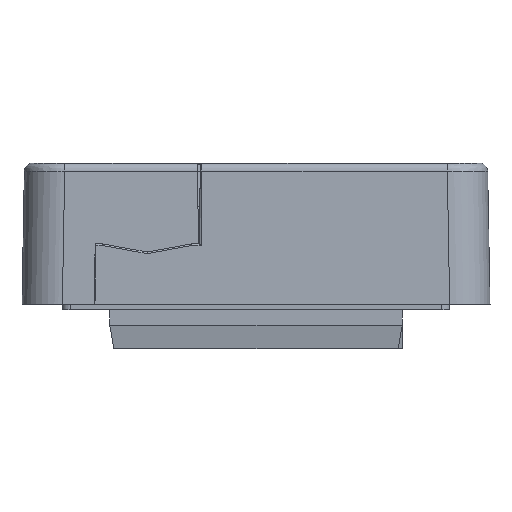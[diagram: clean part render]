
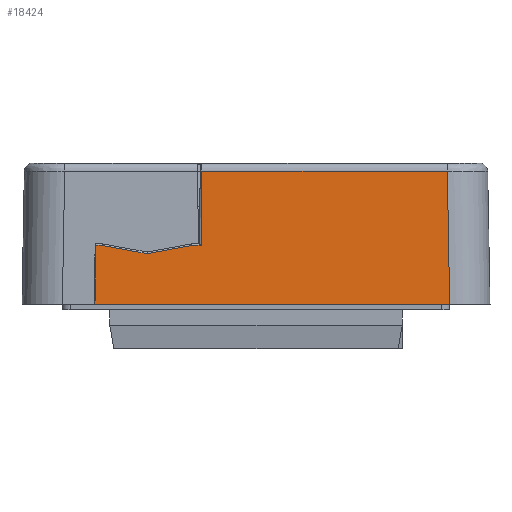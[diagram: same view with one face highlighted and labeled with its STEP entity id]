
A CAD part, left-side view. The second image highlights one B-rep face of the part: STEP entity #18424.
In plain terms, the highlighted planar face has unit normal (-1, 0, 0.018) as drawn and (1, 0, 0.017) by its records, which use the part's own axes.
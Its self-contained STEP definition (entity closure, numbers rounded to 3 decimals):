
#2298=FACE_OUTER_BOUND('',#3428,.T.);
#3428=EDGE_LOOP('',(#15292,#15293,#15294,#15295,#15296,#15297,#15298,#15299,
#15300));
#4741=LINE('',#30722,#6491);
#4754=LINE('',#30765,#6504);
#4801=LINE('',#31917,#6551);
#4805=LINE('',#31927,#6555);
#4807=LINE('',#31933,#6557);
#4809=LINE('',#31939,#6559);
#4813=LINE('',#31987,#6563);
#4926=LINE('',#32869,#6676);
#4935=LINE('',#32885,#6685);
#6491=VECTOR('',#22507,10.);
#6504=VECTOR('',#22538,10.);
#6551=VECTOR('',#22785,10.);
#6555=VECTOR('',#22793,10.);
#6557=VECTOR('',#22799,10.);
#6559=VECTOR('',#22805,10.);
#6563=VECTOR('',#22831,10.);
#6676=VECTOR('',#23220,10.);
#6685=VECTOR('',#23237,10.);
#8273=VERTEX_POINT('',#30720);
#8274=VERTEX_POINT('',#30721);
#8289=VERTEX_POINT('',#30763);
#8353=VERTEX_POINT('',#31916);
#8357=VERTEX_POINT('',#31926);
#8359=VERTEX_POINT('',#31932);
#8361=VERTEX_POINT('',#31938);
#8369=VERTEX_POINT('',#31982);
#8496=VERTEX_POINT('',#32864);
#10499=EDGE_CURVE('',#8273,#8274,#4741,.T.);
#10519=EDGE_CURVE('',#8289,#8274,#4754,.T.);
#10640=EDGE_CURVE('',#8273,#8353,#4801,.T.);
#10645=EDGE_CURVE('',#8353,#8357,#4805,.T.);
#10648=EDGE_CURVE('',#8357,#8359,#4807,.T.);
#10651=EDGE_CURVE('',#8359,#8361,#4809,.T.);
#10663=EDGE_CURVE('',#8361,#8369,#4813,.T.);
#10870=EDGE_CURVE('',#8369,#8496,#4926,.T.);
#10879=EDGE_CURVE('',#8496,#8289,#4935,.T.);
#15292=ORIENTED_EDGE('',*,*,#10640,.F.);
#15293=ORIENTED_EDGE('',*,*,#10499,.T.);
#15294=ORIENTED_EDGE('',*,*,#10519,.F.);
#15295=ORIENTED_EDGE('',*,*,#10879,.F.);
#15296=ORIENTED_EDGE('',*,*,#10870,.F.);
#15297=ORIENTED_EDGE('',*,*,#10663,.F.);
#15298=ORIENTED_EDGE('',*,*,#10651,.F.);
#15299=ORIENTED_EDGE('',*,*,#10648,.F.);
#15300=ORIENTED_EDGE('',*,*,#10645,.F.);
#17495=PLANE('',#19782);
#18424=ADVANCED_FACE('',(#2298),#17495,.T.);
#19782=AXIS2_PLACEMENT_3D('',#32886,#23238,#23239);
#22507=DIRECTION('',(0.017,-0.017,-1.));
#22538=DIRECTION('',(0.,-1.,0.));
#22785=DIRECTION('',(0.,1.,0.));
#22793=DIRECTION('',(0.003,0.984,-0.179));
#22799=DIRECTION('',(-0.003,0.984,0.179));
#22805=DIRECTION('',(0.,1.,0.));
#22831=DIRECTION('',(-0.017,0.009,1.));
#23220=DIRECTION('',(0.,1.,0.));
#23237=DIRECTION('',(0.017,0.017,-1.));
#23238=DIRECTION('center_axis',(1.,0.,0.017));
#23239=DIRECTION('ref_axis',(0.017,0.,-1.));
#30720=CARTESIAN_POINT('',(60.373,-19.873,7.303));
#30721=CARTESIAN_POINT('',(60.5,-20.,0.));
#30722=CARTESIAN_POINT('',(60.493,-19.993,0.427));
#30763=CARTESIAN_POINT('',(60.5,24.001,0.));
#30765=CARTESIAN_POINT('',(60.5,29.,0.));
#31916=CARTESIAN_POINT('',(60.373,-19.018,7.303));
#31917=CARTESIAN_POINT('',(60.373,4.5,7.303));
#31926=CARTESIAN_POINT('',(60.39,-13.5,6.3));
#31927=CARTESIAN_POINT('',(60.448,4.857,2.963));
#31932=CARTESIAN_POINT('',(60.373,-7.982,7.303));
#31933=CARTESIAN_POINT('',(60.326,6.533,9.943));
#31938=CARTESIAN_POINT('',(60.373,-6.802,7.303));
#31939=CARTESIAN_POINT('',(60.373,4.5,7.303));
#31982=CARTESIAN_POINT('',(60.212,-6.721,16.517));
#31987=CARTESIAN_POINT('',(60.432,-6.831,3.904));
#32864=CARTESIAN_POINT('',(60.212,23.712,16.517));
#32869=CARTESIAN_POINT('',(60.212,14.5,16.517));
#32885=CARTESIAN_POINT('',(60.483,23.984,0.968));
#32886=CARTESIAN_POINT('Origin',(60.5,29.,0.));
